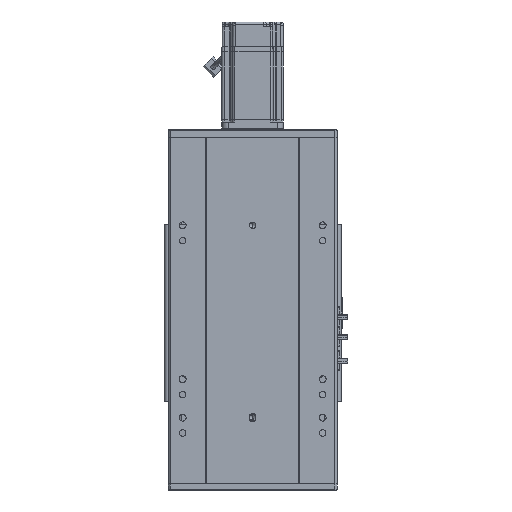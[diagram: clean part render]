
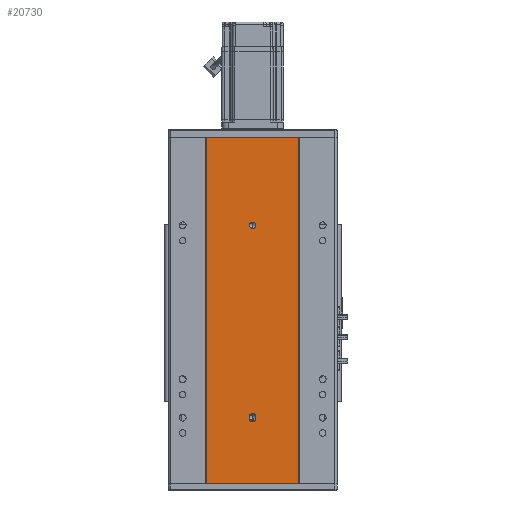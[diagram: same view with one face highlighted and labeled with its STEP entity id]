
A CAD part, front view. The second image highlights one B-rep face of the part: STEP entity #20730.
In plain terms, the highlighted planar face has unit normal (0, -1, 0).
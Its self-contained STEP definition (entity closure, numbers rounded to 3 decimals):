
#3 = CARTESIAN_POINT ( 'NONE',  ( 0., 0., 340. ) ) ;
#826 = CARTESIAN_POINT ( 'NONE',  ( 0., 0., 332. ) ) ;
#1191 = CARTESIAN_POINT ( 'NONE',  ( 4., 0., 84.5 ) ) ;
#2183 = EDGE_CURVE ( 'NONE', #55656, #60614, #5829, .T. ) ;
#4219 = EDGE_LOOP ( 'NONE', ( #30545, #42477, #25655, #45589, #23986 ) ) ;
#4572 = VECTOR ( 'NONE', #46940, 1000. ) ;
#4725 = CARTESIAN_POINT ( 'NONE',  ( 0., 0., 336. ) ) ;
#5779 = DIRECTION ( 'NONE',  ( 0., 1., 0. ) ) ;
#5829 = CIRCLE ( 'NONE', #26663, 4. ) ;
#5945 = VERTEX_POINT ( 'NONE', #826 ) ;
#7859 = CARTESIAN_POINT ( 'NONE',  ( 0., 0., 80.5 ) ) ;
#8646 = ORIENTED_EDGE ( 'NONE', *, *, #38839, .T. ) ;
#8843 = EDGE_CURVE ( 'NONE', #5945, #53838, #50895, .T. ) ;
#9967 = LINE ( 'NONE', #11581, #63040 ) ;
#10479 = EDGE_CURVE ( 'NONE', #60614, #21701, #45054, .T. ) ;
#11581 = CARTESIAN_POINT ( 'NONE',  ( 4., 0., 84.5 ) ) ;
#11876 = VERTEX_POINT ( 'NONE', #54493 ) ;
#12009 = DIRECTION ( 'NONE',  ( 0., 0., 1. ) ) ;
#12473 = CARTESIAN_POINT ( 'NONE',  ( -60., 0., 0. ) ) ;
#13053 = CIRCLE ( 'NONE', #53143, 4. ) ;
#13590 = CARTESIAN_POINT ( 'NONE',  ( -60., 0., 450. ) ) ;
#14326 = DIRECTION ( 'NONE',  ( 0., 0., -1. ) ) ;
#14800 = EDGE_CURVE ( 'NONE', #58564, #59983, #54471, .T. ) ;
#15887 = DIRECTION ( 'NONE',  ( 0., 0., 1. ) ) ;
#16345 = CARTESIAN_POINT ( 'NONE',  ( -4., 0., 84.5 ) ) ;
#16692 = DIRECTION ( 'NONE',  ( 0., -1., 0. ) ) ;
#16710 = VECTOR ( 'NONE', #57188, 1000. ) ;
#18446 = EDGE_CURVE ( 'NONE', #53838, #5945, #13053, .T. ) ;
#19104 = LINE ( 'NONE', #27371, #4572 ) ;
#19869 = CARTESIAN_POINT ( 'NONE',  ( 0., 0., 84.5 ) ) ;
#20320 = AXIS2_PLACEMENT_3D ( 'NONE', #64699, #44437, #33916 ) ;
#20730 = ADVANCED_FACE ( 'NONE', ( #28938, #43436, #62720 ), #41771, .F. ) ;
#21150 = ORIENTED_EDGE ( 'NONE', *, *, #25726, .F. ) ;
#21701 = VERTEX_POINT ( 'NONE', #16345 ) ;
#23986 = ORIENTED_EDGE ( 'NONE', *, *, #2183, .F. ) ;
#25522 = CARTESIAN_POINT ( 'NONE',  ( 4., 0., 87.5 ) ) ;
#25655 = ORIENTED_EDGE ( 'NONE', *, *, #37890, .F. ) ;
#25726 = EDGE_CURVE ( 'NONE', #58564, #55127, #50661, .T. ) ;
#26177 = AXIS2_PLACEMENT_3D ( 'NONE', #31873, #5779, #15887 ) ;
#26663 = AXIS2_PLACEMENT_3D ( 'NONE', #58030, #16692, #32450 ) ;
#27371 = CARTESIAN_POINT ( 'NONE',  ( 60., 0., 450. ) ) ;
#28727 = DIRECTION ( 'NONE',  ( 0., -1., 0. ) ) ;
#28938 = FACE_BOUND ( 'NONE', #63073, .T. ) ;
#28983 = AXIS2_PLACEMENT_3D ( 'NONE', #19869, #61631, #61414 ) ;
#29322 = VERTEX_POINT ( 'NONE', #7859 ) ;
#30545 = ORIENTED_EDGE ( 'NONE', *, *, #62308, .F. ) ;
#31374 = CARTESIAN_POINT ( 'NONE',  ( -60., 0., 450. ) ) ;
#31873 = CARTESIAN_POINT ( 'NONE',  ( -60., 0., 450. ) ) ;
#32450 = DIRECTION ( 'NONE',  ( 0., 0., -1. ) ) ;
#32906 = CARTESIAN_POINT ( 'NONE',  ( 60., 0., 450. ) ) ;
#33916 = DIRECTION ( 'NONE',  ( 0., 0., -1. ) ) ;
#35372 = EDGE_LOOP ( 'NONE', ( #8646, #64959, #21150, #57757 ) ) ;
#37890 = EDGE_CURVE ( 'NONE', #21701, #29322, #40745, .T. ) ;
#38839 = EDGE_CURVE ( 'NONE', #59983, #11876, #40172, .T. ) ;
#39619 = CARTESIAN_POINT ( 'NONE',  ( -60., 0., 0. ) ) ;
#39753 = EDGE_CURVE ( 'NONE', #55127, #11876, #19104, .T. ) ;
#40172 = LINE ( 'NONE', #12473, #63492 ) ;
#40353 = CARTESIAN_POINT ( 'NONE',  ( -4., 0., 87.5 ) ) ;
#40745 = CIRCLE ( 'NONE', #20320, 4. ) ;
#41771 = PLANE ( 'NONE',  #26177 ) ;
#42477 = ORIENTED_EDGE ( 'NONE', *, *, #60545, .F. ) ;
#43436 = FACE_BOUND ( 'NONE', #4219, .T. ) ;
#44437 = DIRECTION ( 'NONE',  ( 0., -1., 0. ) ) ;
#44546 = AXIS2_PLACEMENT_3D ( 'NONE', #65152, #28727, #59721 ) ;
#45054 = LINE ( 'NONE', #54994, #58667 ) ;
#45588 = ORIENTED_EDGE ( 'NONE', *, *, #18446, .F. ) ;
#45589 = ORIENTED_EDGE ( 'NONE', *, *, #10479, .F. ) ;
#46940 = DIRECTION ( 'NONE',  ( 0., 0., -1. ) ) ;
#50661 = LINE ( 'NONE', #13590, #56253 ) ;
#50895 = CIRCLE ( 'NONE', #44546, 4. ) ;
#51806 = DIRECTION ( 'NONE',  ( 1., 0., 0. ) ) ;
#53143 = AXIS2_PLACEMENT_3D ( 'NONE', #4725, #56412, #66375 ) ;
#53838 = VERTEX_POINT ( 'NONE', #3 ) ;
#54471 = LINE ( 'NONE', #31374, #16710 ) ;
#54493 = CARTESIAN_POINT ( 'NONE',  ( 60., 0., 0. ) ) ;
#54994 = CARTESIAN_POINT ( 'NONE',  ( -4., 0., 84.5 ) ) ;
#55127 = VERTEX_POINT ( 'NONE', #32906 ) ;
#55656 = VERTEX_POINT ( 'NONE', #25522 ) ;
#55833 = VERTEX_POINT ( 'NONE', #1191 ) ;
#56202 = CIRCLE ( 'NONE', #28983, 4. ) ;
#56253 = VECTOR ( 'NONE', #51806, 1000. ) ;
#56412 = DIRECTION ( 'NONE',  ( 0., -1., 0. ) ) ;
#57188 = DIRECTION ( 'NONE',  ( 0., 0., -1. ) ) ;
#57309 = CARTESIAN_POINT ( 'NONE',  ( -60., 0., 450. ) ) ;
#57757 = ORIENTED_EDGE ( 'NONE', *, *, #14800, .T. ) ;
#58030 = CARTESIAN_POINT ( 'NONE',  ( 0., 0., 87.5 ) ) ;
#58564 = VERTEX_POINT ( 'NONE', #57309 ) ;
#58667 = VECTOR ( 'NONE', #14326, 1000. ) ;
#59721 = DIRECTION ( 'NONE',  ( 0., 0., -1. ) ) ;
#59983 = VERTEX_POINT ( 'NONE', #39619 ) ;
#60545 = EDGE_CURVE ( 'NONE', #29322, #55833, #56202, .T. ) ;
#60614 = VERTEX_POINT ( 'NONE', #40353 ) ;
#60818 = ORIENTED_EDGE ( 'NONE', *, *, #8843, .F. ) ;
#61414 = DIRECTION ( 'NONE',  ( 0., 0., -1. ) ) ;
#61631 = DIRECTION ( 'NONE',  ( 0., -1., 0. ) ) ;
#62308 = EDGE_CURVE ( 'NONE', #55833, #55656, #9967, .T. ) ;
#62720 = FACE_OUTER_BOUND ( 'NONE', #35372, .T. ) ;
#63040 = VECTOR ( 'NONE', #12009, 1000. ) ;
#63073 = EDGE_LOOP ( 'NONE', ( #60818, #45588 ) ) ;
#63492 = VECTOR ( 'NONE', #64621, 1000. ) ;
#64621 = DIRECTION ( 'NONE',  ( 1., 0., 0. ) ) ;
#64699 = CARTESIAN_POINT ( 'NONE',  ( 0., 0., 84.5 ) ) ;
#64959 = ORIENTED_EDGE ( 'NONE', *, *, #39753, .F. ) ;
#65152 = CARTESIAN_POINT ( 'NONE',  ( 0., 0., 336. ) ) ;
#66375 = DIRECTION ( 'NONE',  ( 0., 0., -1. ) ) ;
